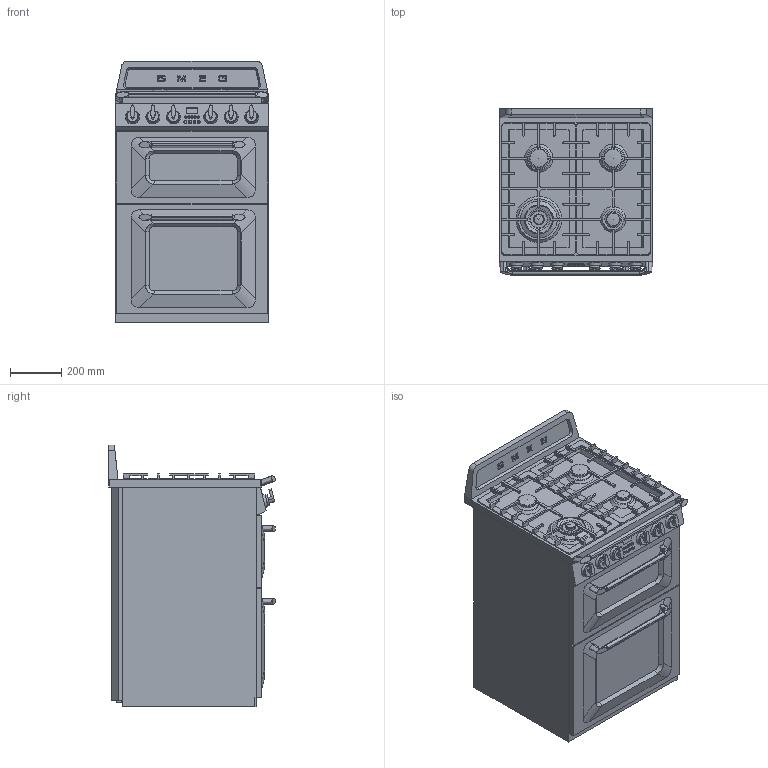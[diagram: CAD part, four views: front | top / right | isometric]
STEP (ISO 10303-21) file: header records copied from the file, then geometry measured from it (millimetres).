
FILE_DESCRIPTION(/* description */ (''),/* implementation_level */ '2;1');
FILE_NAME(/* name */ 'TR62P.stp',/* time_stamp */ '2017-11-06T16:44:48+01:00',/* author */ (''),/* organization */ (''),/* preprocessor_version */ 'ST-DEVELOPER v16',/* originating_system */ 'SIEMENS PLM Software NX 11.0',/* authorisation */ '');
FILE_SCHEMA (('AUTOMOTIVE_DESIGN { 1 0 10303 214 3 1 1 1 }'));
Length unit declared in the file: millimetre
Products named in the file (1): grasBE501F6Bzrma
Bounding box: 600 x 651.64 x 1024.8 mm (x, y, z)
Volume: 299596059.9 mm3; surface area: 6683723.6 mm2
Topology: 53 solids, 55 shells, 1233 faces, 3187 edges, 2095 vertices
Faces by surface type: plane 692, cylinder 278, extrusion 160, bspline 52, cone 33, torus 13, sphere 5
Full cylindrical faces by diameter (mm): 3.9 x5, 5 x12, 8 x5, 9 x5, 20 x9, 37 x1, 43 x1, 43.084 x6, 46 x1, 55 x1, 65.3 x1, 66 x1, 67 x2, 71.4 x1, 75 x2, 84.934 x1, 85.5 x2, 108.8 x1, 113 x1, 113.323 x1, 144.5 x1
Entity records: 41299 total; most frequent: CARTESIAN_POINT 11372, ORIENTED_EDGE 6128, DIRECTION 5769, EDGE_CURVE 3069, VECTOR 2125, VERTEX_POINT 2085, LINE 1965, AXIS2_PLACEMENT_3D 1822
